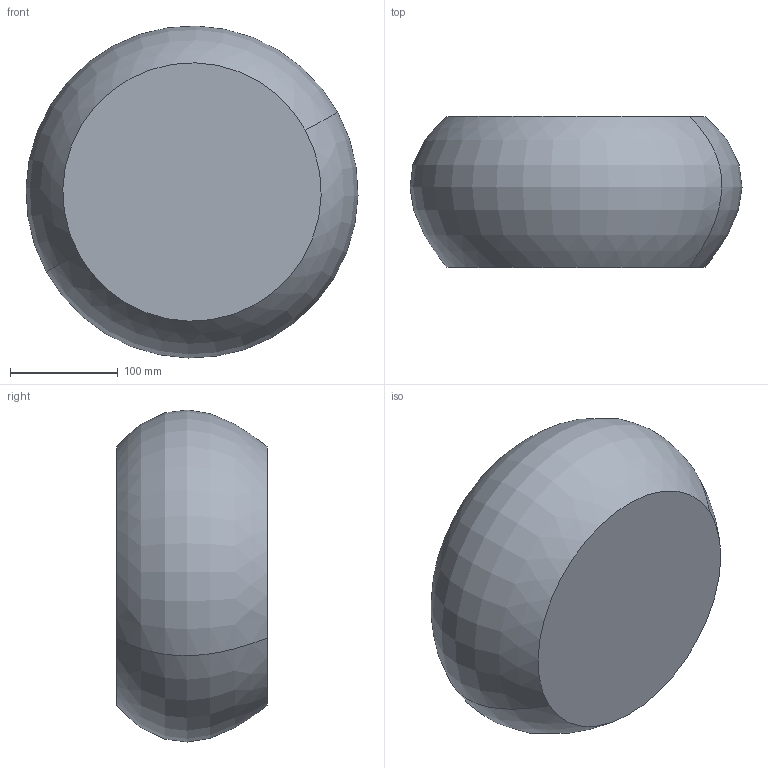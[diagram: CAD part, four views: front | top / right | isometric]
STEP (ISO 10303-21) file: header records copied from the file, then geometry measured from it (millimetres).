
FILE_DESCRIPTION(('CATIA V5 STEP Exchange'),'2;1');
FILE_NAME('C:\_Andres\UNIVERSIDAD\IQS\ASIGNATURAS\DAO\EXF\EXF-15161c\1original\Garcia_Granada_Ej10-decora_v30.stp','2016-03-04T22:24:15+00:00',('none'),('none'),'CATIA Version 5 Release 20 SP 1 (IN-10)','CATIA V5 STEP AP203','none');
FILE_SCHEMA(('CONFIG_CONTROL_DESIGN'));
Length unit declared in the file: millimetre
Products named in the file (1): Garcia_Granada_Ej10-decora_v30
Bounding box: 308.39 x 140 x 308.39 mm (x, y, z)
Volume: 9019048.1 mm3; surface area: 233050.4 mm2
Topology: 1 solids, 1 shells, 4 faces, 6 edges, 4 vertices
Faces by surface type: revolution 2, plane 2
Entity records: 166 total; most frequent: CARTESIAN_POINT 50, DIRECTION 12, ORIENTED_EDGE 12, AXIS2_PLACEMENT_3D 8, EDGE_CURVE 6, ADVANCED_FACE 4, B_SPLINE_CURVE_WITH_KNOTS 4, CC_DESIGN_PERSON_AND_ORGANIZATION_ASSIGNMENT 4
